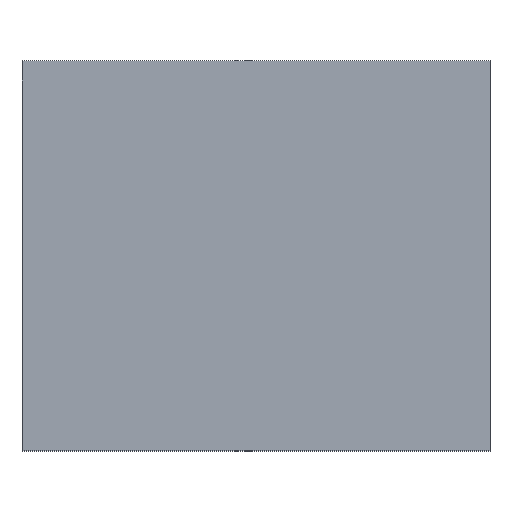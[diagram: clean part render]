
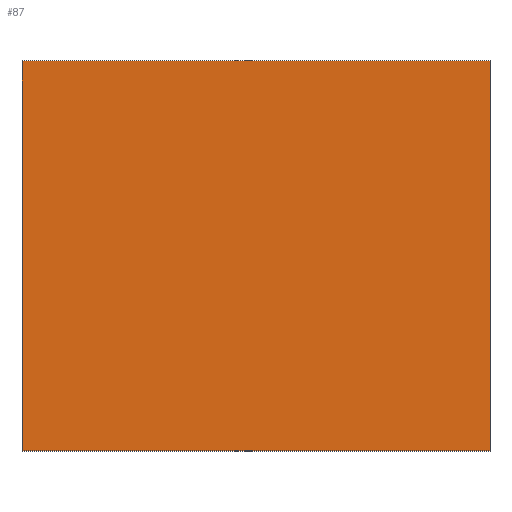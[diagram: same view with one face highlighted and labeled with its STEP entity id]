
A CAD part, top view. The second image highlights one B-rep face of the part: STEP entity #87.
In plain terms, the highlighted planar face has unit normal (0, 0, 1).
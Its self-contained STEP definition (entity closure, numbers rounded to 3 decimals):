
#22=CARTESIAN_POINT('',(-3.,-2.5,0.75));
#23=CARTESIAN_POINT('',(3.,-2.5,0.75));
#24=CARTESIAN_POINT('',(3.,2.5,0.75));
#25=CARTESIAN_POINT('',(-3.,2.5,0.75));
#30=VERTEX_POINT('',#22);
#31=VERTEX_POINT('',#23);
#32=VERTEX_POINT('',#24);
#33=VERTEX_POINT('',#25);
#61=DIRECTION('',(1.,0.,0.));
#62=VECTOR('',#61,6.);
#63=LINE('',#22,#62);
#64=EDGE_CURVE('',#30,#31,#63,.T.);
#65=ORIENTED_EDGE('',*,*,#64,.T.);
#66=DIRECTION('',(0.,1.,0.));
#67=VECTOR('',#66,5.);
#68=LINE('',#23,#67);
#69=EDGE_CURVE('',#31,#32,#68,.T.);
#70=ORIENTED_EDGE('',*,*,#69,.T.);
#71=DIRECTION('',(-1.,0.,0.));
#72=VECTOR('',#71,6.);
#73=LINE('',#24,#72);
#74=EDGE_CURVE('',#32,#33,#73,.T.);
#75=ORIENTED_EDGE('',*,*,#74,.T.);
#76=DIRECTION('',(0.,1.,0.));
#77=VECTOR('',#76,5.);
#78=LINE('',#22,#77);
#79=EDGE_CURVE('',#30,#33,#78,.T.);
#80=ORIENTED_EDGE('',*,*,#79,.F.);
#81=EDGE_LOOP('',(#65,#70,#75,#80));
#82=FACE_OUTER_BOUND('',#81,.T.);
#83=DIRECTION('',(0.,0.,1.));
#84=DIRECTION('',(1.,0.,0.));
#85=AXIS2_PLACEMENT_3D('',#22,#83,#84);
#86=PLANE('',#85);
#87=ADVANCED_FACE('',(#82),#86,.T.);
